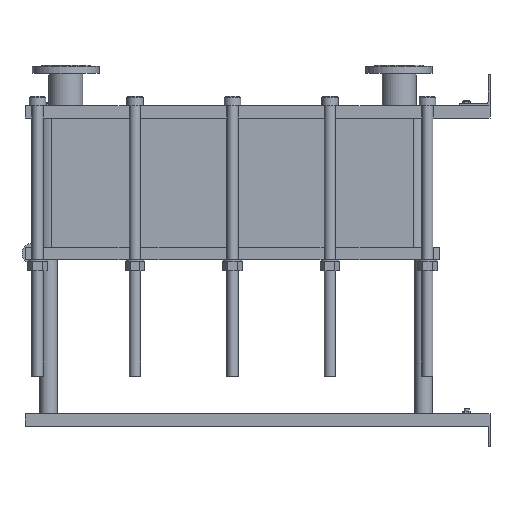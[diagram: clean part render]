
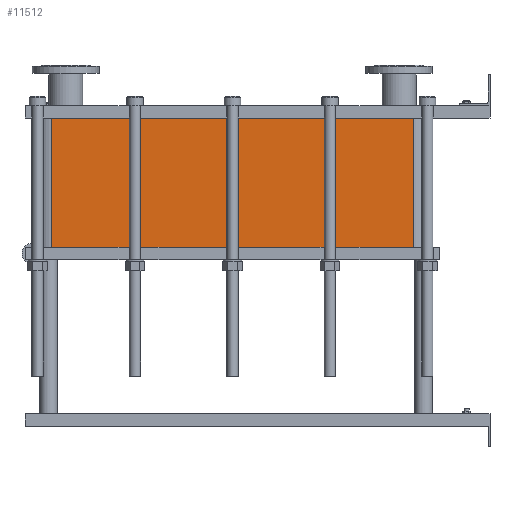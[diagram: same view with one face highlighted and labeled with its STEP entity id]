
A CAD part, left-side view. The second image highlights one B-rep face of the part: STEP entity #11512.
In plain terms, the highlighted planar face has unit normal (-1, 0, 0).
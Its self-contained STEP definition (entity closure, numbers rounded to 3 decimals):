
#1129=LINE('',#23232,#2102);
#1130=LINE('',#23236,#2103);
#1131=LINE('',#23238,#2104);
#1132=LINE('',#23239,#2105);
#2102=VECTOR('',#15887,10.);
#2103=VECTOR('',#15892,10.);
#2104=VECTOR('',#15893,10.);
#2105=VECTOR('',#15894,10.);
#3267=FACE_OUTER_BOUND('',#4093,.T.);
#4093=EDGE_LOOP('',(#10103,#10104,#10105,#10106));
#5642=VERTEX_POINT('',#23229);
#5643=VERTEX_POINT('',#23231);
#5644=VERTEX_POINT('',#23235);
#5645=VERTEX_POINT('',#23237);
#7159=EDGE_CURVE('',#5643,#5642,#1129,.T.);
#7161=EDGE_CURVE('',#5642,#5644,#1130,.T.);
#7162=EDGE_CURVE('',#5645,#5644,#1131,.T.);
#7163=EDGE_CURVE('',#5645,#5643,#1132,.T.);
#10103=ORIENTED_EDGE('',*,*,#7161,.T.);
#10104=ORIENTED_EDGE('',*,*,#7162,.F.);
#10105=ORIENTED_EDGE('',*,*,#7163,.T.);
#10106=ORIENTED_EDGE('',*,*,#7159,.T.);
#10857=PLANE('',#12751);
#11512=ADVANCED_FACE('',(#3267),#10857,.T.);
#12751=AXIS2_PLACEMENT_3D('',#23234,#15890,#15891);
#15887=DIRECTION('',(0.,0.,-1.));
#15890=DIRECTION('center_axis',(-1.,0.,0.));
#15891=DIRECTION('ref_axis',(0.,1.,0.));
#15892=DIRECTION('',(0.,-1.,0.));
#15893=DIRECTION('',(0.,0.,-1.));
#15894=DIRECTION('',(0.,1.,0.));
#23229=CARTESIAN_POINT('',(-200.,1414.,-417.45));
#23231=CARTESIAN_POINT('',(-200.,1414.,0.));
#23232=CARTESIAN_POINT('',(-200.,1414.,0.));
#23234=CARTESIAN_POINT('Origin',(-200.,248.,0.));
#23235=CARTESIAN_POINT('',(-200.,248.,-417.45));
#23236=CARTESIAN_POINT('',(-200.,539.5,-417.45));
#23237=CARTESIAN_POINT('',(-200.,248.,0.));
#23238=CARTESIAN_POINT('',(-200.,248.,0.));
#23239=CARTESIAN_POINT('',(-200.,248.,0.));
